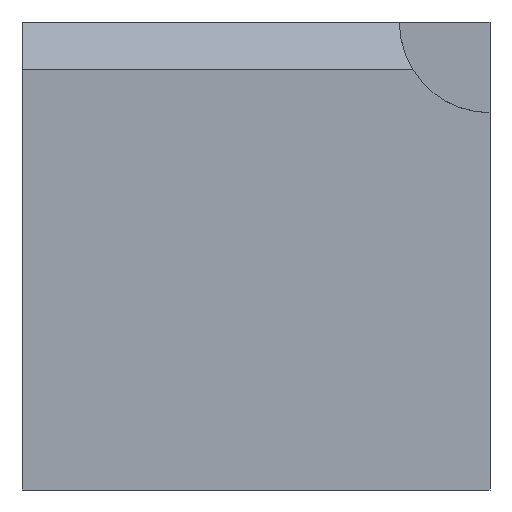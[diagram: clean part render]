
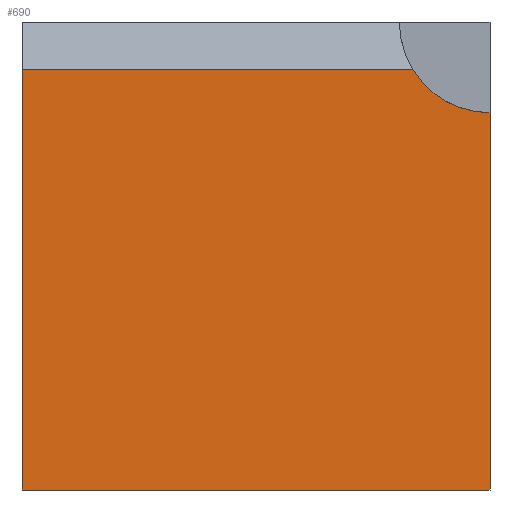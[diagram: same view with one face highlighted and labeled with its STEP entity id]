
A CAD part, left-side view. The second image highlights one B-rep face of the part: STEP entity #690.
In plain terms, the highlighted planar face has unit normal (-1, 0, 0).
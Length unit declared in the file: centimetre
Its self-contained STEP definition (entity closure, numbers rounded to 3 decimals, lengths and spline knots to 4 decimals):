
#15 = CARTESIAN_POINT ( 'NONE',  ( 0., 0., 0. ) ) ;
#52 = VECTOR ( 'NONE', #1038, 100. ) ;
#106 = VERTEX_POINT ( 'NONE', #412 ) ;
#159 = VERTEX_POINT ( 'NONE', #665 ) ;
#161 = AXIS2_PLACEMENT_3D ( 'NONE', #482, #804, #569 ) ;
#164 = ORIENTED_EDGE ( 'NONE', *, *, #472, .F. ) ;
#165 = DIRECTION ( 'NONE',  ( 1., 0., 0. ) ) ;
#204 = CARTESIAN_POINT ( 'NONE',  ( 0., 1000., 898.4155 ) ) ;
#215 = EDGE_CURVE ( 'NONE', #159, #982, #357, .T. ) ;
#252 = LINE ( 'NONE', #422, #52 ) ;
#308 = ORIENTED_EDGE ( 'NONE', *, *, #855, .T. ) ;
#311 = ORIENTED_EDGE ( 'NONE', *, *, #963, .F. ) ;
#315 = FACE_OUTER_BOUND ( 'NONE', #680, .T. ) ;
#328 = DIRECTION ( 'NONE',  ( 0., -1., 0. ) ) ;
#357 = LINE ( 'NONE', #204, #834 ) ;
#394 = CIRCLE ( 'NONE', #161, 193.8415 ) ;
#412 = CARTESIAN_POINT ( 'NONE',  ( 0., 0., 806.1585 ) ) ;
#414 = ORIENTED_EDGE ( 'NONE', *, *, #945, .T. ) ;
#422 = CARTESIAN_POINT ( 'NONE',  ( 0., 0., 1000. ) ) ;
#472 = EDGE_CURVE ( 'NONE', #106, #501, #252, .T. ) ;
#476 = CARTESIAN_POINT ( 'NONE',  ( 0., 1000., 0. ) ) ;
#482 = CARTESIAN_POINT ( 'NONE',  ( 0., 0., 1000. ) ) ;
#493 = CARTESIAN_POINT ( 'NONE',  ( 0., 1000., 898.4155 ) ) ;
#501 = VERTEX_POINT ( 'NONE', #15 ) ;
#522 = DIRECTION ( 'NONE',  ( 0., 1., 0. ) ) ;
#528 = ORIENTED_EDGE ( 'NONE', *, *, #215, .T. ) ;
#555 = CARTESIAN_POINT ( 'NONE',  ( 0., 1000., 1000. ) ) ;
#569 = DIRECTION ( 'NONE',  ( 0., 0., 1. ) ) ;
#655 = CARTESIAN_POINT ( 'NONE',  ( 0., 1000., 1000. ) ) ;
#665 = CARTESIAN_POINT ( 'NONE',  ( 0., 165.0912, 898.4155 ) ) ;
#680 = EDGE_LOOP ( 'NONE', ( #164, #311, #528, #308, #414 ) ) ;
#685 = AXIS2_PLACEMENT_3D ( 'NONE', #655, #165, #812 ) ;
#690 = ADVANCED_FACE ( 'NONE', ( #315 ), #892, .F. ) ;
#804 = DIRECTION ( 'NONE',  ( -1., 0., 0. ) ) ;
#812 = DIRECTION ( 'NONE',  ( 0., 0., -1. ) ) ;
#834 = VECTOR ( 'NONE', #522, 100. ) ;
#855 = EDGE_CURVE ( 'NONE', #982, #1014, #955, .T. ) ;
#863 = DIRECTION ( 'NONE',  ( 0., 0., -1. ) ) ;
#885 = CARTESIAN_POINT ( 'NONE',  ( 0., 1000., 0. ) ) ;
#892 = PLANE ( 'NONE',  #685 ) ;
#945 = EDGE_CURVE ( 'NONE', #1014, #501, #969, .T. ) ;
#955 = LINE ( 'NONE', #555, #1004 ) ;
#963 = EDGE_CURVE ( 'NONE', #159, #106, #394, .T. ) ;
#969 = LINE ( 'NONE', #885, #1023 ) ;
#982 = VERTEX_POINT ( 'NONE', #493 ) ;
#1004 = VECTOR ( 'NONE', #863, 100. ) ;
#1014 = VERTEX_POINT ( 'NONE', #476 ) ;
#1023 = VECTOR ( 'NONE', #328, 100. ) ;
#1038 = DIRECTION ( 'NONE',  ( 0., 0., -1. ) ) ;
